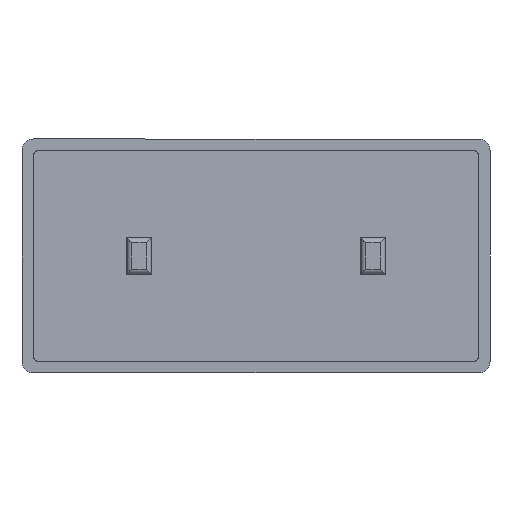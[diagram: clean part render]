
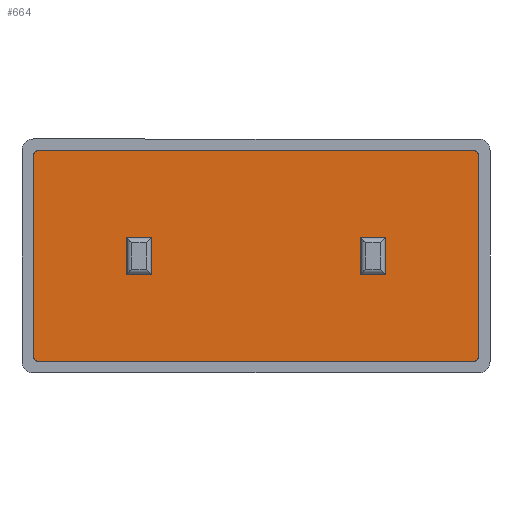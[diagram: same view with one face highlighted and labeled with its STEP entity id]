
A CAD part, front view. The second image highlights one B-rep face of the part: STEP entity #664.
In plain terms, the highlighted planar face has unit normal (0, -1, 0).
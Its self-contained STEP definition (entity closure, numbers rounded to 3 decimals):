
#5 = VECTOR ( 'NONE', #1281, 1000. ) ;
#8 = DIRECTION ( 'NONE',  ( 1., 0., 0. ) ) ;
#22 = EDGE_CURVE ( 'NONE', #132, #608, #1232, .T. ) ;
#25 = AXIS2_PLACEMENT_3D ( 'NONE', #1156, #35, #656 ) ;
#35 = DIRECTION ( 'NONE',  ( 0., -1., 0. ) ) ;
#47 = ORIENTED_EDGE ( 'NONE', *, *, #336, .F. ) ;
#51 = CARTESIAN_POINT ( 'NONE',  ( 38., 0., 17.2 ) ) ;
#60 = CARTESIAN_POINT ( 'NONE',  ( 37.2, 0., 18. ) ) ;
#79 = VERTEX_POINT ( 'NONE', #60 ) ;
#96 = FACE_BOUND ( 'NONE', #322, .T. ) ;
#100 = ORIENTED_EDGE ( 'NONE', *, *, #1218, .T. ) ;
#116 = ORIENTED_EDGE ( 'NONE', *, *, #879, .T. ) ;
#120 = VERTEX_POINT ( 'NONE', #1036 ) ;
#128 = CARTESIAN_POINT ( 'NONE',  ( -17.85, 0., -3.15 ) ) ;
#130 = LINE ( 'NONE', #652, #679 ) ;
#132 = VERTEX_POINT ( 'NONE', #933 ) ;
#145 = VECTOR ( 'NONE', #515, 1000. ) ;
#150 = CARTESIAN_POINT ( 'NONE',  ( -22.15, 0., -3.15 ) ) ;
#151 = CARTESIAN_POINT ( 'NONE',  ( 38., 0., 17.2 ) ) ;
#154 = DIRECTION ( 'NONE',  ( 0., 0., 1. ) ) ;
#164 = VERTEX_POINT ( 'NONE', #640 ) ;
#173 = EDGE_CURVE ( 'NONE', #272, #541, #544, .T. ) ;
#174 = DIRECTION ( 'NONE',  ( 0., 0., 1. ) ) ;
#181 = CARTESIAN_POINT ( 'NONE',  ( 22.15, 0., 3.15 ) ) ;
#183 = DIRECTION ( 'NONE',  ( 1., 0., 0. ) ) ;
#186 = DIRECTION ( 'NONE',  ( 0., 0., 1. ) ) ;
#208 = CARTESIAN_POINT ( 'NONE',  ( -37.2, 0., 18. ) ) ;
#210 = VECTOR ( 'NONE', #154, 1000. ) ;
#213 = VECTOR ( 'NONE', #183, 1000. ) ;
#252 = AXIS2_PLACEMENT_3D ( 'NONE', #540, #1241, #645 ) ;
#254 = VECTOR ( 'NONE', #174, 1000. ) ;
#263 = ORIENTED_EDGE ( 'NONE', *, *, #681, .T. ) ;
#268 = EDGE_CURVE ( 'NONE', #311, #831, #1009, .T. ) ;
#270 = ORIENTED_EDGE ( 'NONE', *, *, #268, .F. ) ;
#271 = VECTOR ( 'NONE', #538, 1000. ) ;
#272 = VERTEX_POINT ( 'NONE', #1174 ) ;
#280 = LINE ( 'NONE', #419, #5 ) ;
#311 = VERTEX_POINT ( 'NONE', #577 ) ;
#314 = ORIENTED_EDGE ( 'NONE', *, *, #346, .F. ) ;
#318 = LINE ( 'NONE', #957, #1123 ) ;
#322 = EDGE_LOOP ( 'NONE', ( #1099, #47, #270, #426 ) ) ;
#327 = DIRECTION ( 'NONE',  ( 0., -1., 0. ) ) ;
#336 = EDGE_CURVE ( 'NONE', #831, #470, #130, .T. ) ;
#337 = FACE_OUTER_BOUND ( 'NONE', #572, .T. ) ;
#343 = PLANE ( 'NONE',  #25 ) ;
#346 = EDGE_CURVE ( 'NONE', #541, #132, #280, .T. ) ;
#374 = DIRECTION ( 'NONE',  ( 0., -1., 0. ) ) ;
#403 = EDGE_CURVE ( 'NONE', #470, #799, #1053, .T. ) ;
#407 = CARTESIAN_POINT ( 'NONE',  ( 17.85, 0., -3.15 ) ) ;
#419 = CARTESIAN_POINT ( 'NONE',  ( -22.15, 0., 3.15 ) ) ;
#424 = ORIENTED_EDGE ( 'NONE', *, *, #1082, .T. ) ;
#426 = ORIENTED_EDGE ( 'NONE', *, *, #885, .F. ) ;
#450 = LINE ( 'NONE', #208, #145 ) ;
#452 = CARTESIAN_POINT ( 'NONE',  ( 37.2, 0., 17.2 ) ) ;
#454 = DIRECTION ( 'NONE',  ( 0., 0., -1. ) ) ;
#456 = VERTEX_POINT ( 'NONE', #696 ) ;
#462 = ORIENTED_EDGE ( 'NONE', *, *, #737, .T. ) ;
#470 = VERTEX_POINT ( 'NONE', #407 ) ;
#474 = EDGE_CURVE ( 'NONE', #79, #911, #450, .T. ) ;
#505 = ORIENTED_EDGE ( 'NONE', *, *, #1282, .F. ) ;
#515 = DIRECTION ( 'NONE',  ( -1., 0., 0. ) ) ;
#538 = DIRECTION ( 'NONE',  ( -1., 0., 0. ) ) ;
#540 = CARTESIAN_POINT ( 'NONE',  ( -37.2, 0., 17.2 ) ) ;
#541 = VERTEX_POINT ( 'NONE', #721 ) ;
#544 = LINE ( 'NONE', #566, #271 ) ;
#555 = DIRECTION ( 'NONE',  ( 0., 0., -1. ) ) ;
#559 = ORIENTED_EDGE ( 'NONE', *, *, #1151, .T. ) ;
#563 = DIRECTION ( 'NONE',  ( 0., 0., -1. ) ) ;
#566 = CARTESIAN_POINT ( 'NONE',  ( -22.15, 0., 3.15 ) ) ;
#572 = EDGE_LOOP ( 'NONE', ( #559, #100, #424, #116, #1046, #462, #263, #919 ) ) ;
#577 = CARTESIAN_POINT ( 'NONE',  ( 22.15, 0., 3.15 ) ) ;
#580 = CARTESIAN_POINT ( 'NONE',  ( 22.15, 0., -3.15 ) ) ;
#594 = DIRECTION ( 'NONE',  ( 1., 0., 0. ) ) ;
#598 = LINE ( 'NONE', #789, #1163 ) ;
#608 = VERTEX_POINT ( 'NONE', #128 ) ;
#640 = CARTESIAN_POINT ( 'NONE',  ( -38., 0., 17.2 ) ) ;
#641 = FACE_BOUND ( 'NONE', #750, .T. ) ;
#645 = DIRECTION ( 'NONE',  ( 0., 0., -1. ) ) ;
#652 = CARTESIAN_POINT ( 'NONE',  ( 17.85, 0., 3.15 ) ) ;
#656 = DIRECTION ( 'NONE',  ( 0., 0., -1. ) ) ;
#664 = ADVANCED_FACE ( 'NONE', ( #641, #337, #96 ), #343, .T. ) ;
#668 = CARTESIAN_POINT ( 'NONE',  ( -37.2, 0., -18. ) ) ;
#679 = VECTOR ( 'NONE', #563, 1000. ) ;
#681 = EDGE_CURVE ( 'NONE', #728, #79, #839, .T. ) ;
#696 = CARTESIAN_POINT ( 'NONE',  ( 38., 0., -17.2 ) ) ;
#707 = VERTEX_POINT ( 'NONE', #668 ) ;
#721 = CARTESIAN_POINT ( 'NONE',  ( -22.15, 0., 3.15 ) ) ;
#728 = VERTEX_POINT ( 'NONE', #51 ) ;
#732 = VECTOR ( 'NONE', #1193, 1000. ) ;
#737 = EDGE_CURVE ( 'NONE', #456, #728, #1018, .T. ) ;
#750 = EDGE_LOOP ( 'NONE', ( #766, #314, #1044, #505 ) ) ;
#766 = ORIENTED_EDGE ( 'NONE', *, *, #22, .F. ) ;
#789 = CARTESIAN_POINT ( 'NONE',  ( -37.2, 0., -18. ) ) ;
#792 = LINE ( 'NONE', #986, #254 ) ;
#799 = VERTEX_POINT ( 'NONE', #580 ) ;
#811 = EDGE_CURVE ( 'NONE', #120, #456, #1198, .T. ) ;
#825 = VECTOR ( 'NONE', #186, 1000. ) ;
#831 = VERTEX_POINT ( 'NONE', #1276 ) ;
#839 = CIRCLE ( 'NONE', #1141, 0.8 ) ;
#879 = EDGE_CURVE ( 'NONE', #707, #120, #598, .T. ) ;
#885 = EDGE_CURVE ( 'NONE', #799, #311, #1126, .T. ) ;
#911 = VERTEX_POINT ( 'NONE', #1206 ) ;
#917 = AXIS2_PLACEMENT_3D ( 'NONE', #978, #374, #1083 ) ;
#919 = ORIENTED_EDGE ( 'NONE', *, *, #474, .T. ) ;
#923 = CARTESIAN_POINT ( 'NONE',  ( -38., 0., -17.2 ) ) ;
#928 = CARTESIAN_POINT ( 'NONE',  ( -37.2, 0., -17.2 ) ) ;
#933 = CARTESIAN_POINT ( 'NONE',  ( -22.15, 0., -3.15 ) ) ;
#957 = CARTESIAN_POINT ( 'NONE',  ( -38., 0., 17.2 ) ) ;
#964 = VECTOR ( 'NONE', #8, 1000. ) ;
#978 = CARTESIAN_POINT ( 'NONE',  ( 37.2, 0., -17.2 ) ) ;
#986 = CARTESIAN_POINT ( 'NONE',  ( -17.85, 0., 3.15 ) ) ;
#1009 = LINE ( 'NONE', #1260, #732 ) ;
#1017 = CIRCLE ( 'NONE', #1089, 0.8 ) ;
#1018 = LINE ( 'NONE', #151, #210 ) ;
#1032 = DIRECTION ( 'NONE',  ( 0., 0., -1. ) ) ;
#1036 = CARTESIAN_POINT ( 'NONE',  ( 37.2, 0., -18. ) ) ;
#1044 = ORIENTED_EDGE ( 'NONE', *, *, #173, .F. ) ;
#1046 = ORIENTED_EDGE ( 'NONE', *, *, #811, .T. ) ;
#1051 = VERTEX_POINT ( 'NONE', #923 ) ;
#1053 = LINE ( 'NONE', #1087, #213 ) ;
#1082 = EDGE_CURVE ( 'NONE', #1051, #707, #1017, .T. ) ;
#1083 = DIRECTION ( 'NONE',  ( 0., 0., -1. ) ) ;
#1087 = CARTESIAN_POINT ( 'NONE',  ( 17.85, 0., -3.15 ) ) ;
#1089 = AXIS2_PLACEMENT_3D ( 'NONE', #928, #327, #1032 ) ;
#1099 = ORIENTED_EDGE ( 'NONE', *, *, #403, .F. ) ;
#1123 = VECTOR ( 'NONE', #454, 1000. ) ;
#1126 = LINE ( 'NONE', #181, #825 ) ;
#1141 = AXIS2_PLACEMENT_3D ( 'NONE', #452, #1162, #555 ) ;
#1151 = EDGE_CURVE ( 'NONE', #911, #164, #1221, .T. ) ;
#1156 = CARTESIAN_POINT ( 'NONE',  ( -37.2, 0., 17.2 ) ) ;
#1162 = DIRECTION ( 'NONE',  ( 0., -1., 0. ) ) ;
#1163 = VECTOR ( 'NONE', #594, 1000. ) ;
#1174 = CARTESIAN_POINT ( 'NONE',  ( -17.85, 0., 3.15 ) ) ;
#1193 = DIRECTION ( 'NONE',  ( -1., 0., 0. ) ) ;
#1198 = CIRCLE ( 'NONE', #917, 0.8 ) ;
#1206 = CARTESIAN_POINT ( 'NONE',  ( -37.2, 0., 18. ) ) ;
#1218 = EDGE_CURVE ( 'NONE', #164, #1051, #318, .T. ) ;
#1221 = CIRCLE ( 'NONE', #252, 0.8 ) ;
#1232 = LINE ( 'NONE', #150, #964 ) ;
#1241 = DIRECTION ( 'NONE',  ( 0., -1., 0. ) ) ;
#1260 = CARTESIAN_POINT ( 'NONE',  ( 17.85, 0., 3.15 ) ) ;
#1276 = CARTESIAN_POINT ( 'NONE',  ( 17.85, 0., 3.15 ) ) ;
#1281 = DIRECTION ( 'NONE',  ( 0., 0., -1. ) ) ;
#1282 = EDGE_CURVE ( 'NONE', #608, #272, #792, .T. ) ;
